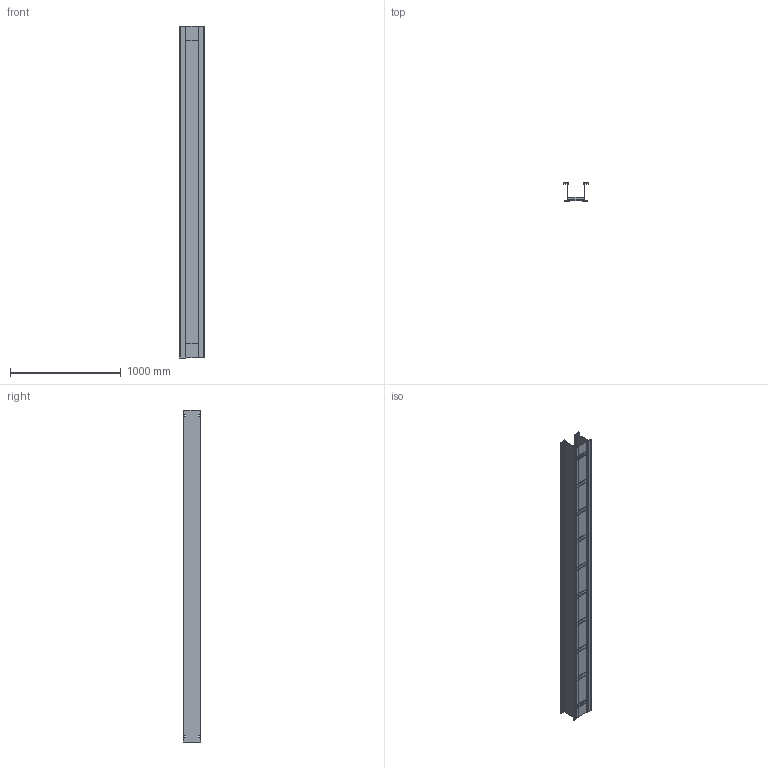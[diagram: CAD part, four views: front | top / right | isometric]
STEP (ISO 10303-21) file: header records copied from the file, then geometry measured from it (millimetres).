
FILE_DESCRIPTION((''),'2;1');
FILE_NAME('AH6606S-3_ASM','2010-02-02T',('erouzier'),(''),'PRO/ENGINEER BY PARAMETRIC TECHNOLOGY CORPORATION, 2008510','PRO/ENGINEER BY PARAMETRIC TECHNOLOGY CORPORATION, 2008510','');
FILE_SCHEMA(('CONFIG_CONTROL_DESIGN'));
Length unit declared in the file: inch
Products named in the file (14): CDS002156-015_AF3; CDS002156-015_AF4; CDS002159L6_AF0; CDS002159L6_AF1; CDS002159L6_AF2; CDS002159L6_AF3; CDS002159L6_AF4; CDS002159L6_AF5; CDS002159L6_AF6; CDS002159L6_AF7; CDS002159L6_AF8; CDS002159L6_AF9; ED04587-009; AH6606S-3_ASM
Assembly tree (13 placements, depth 2):
  AH6606S-3_ASM
    CDS002156-015_AF3
    CDS002156-015_AF4
    CDS002159L6_AF0
    CDS002159L6_AF1
    CDS002159L6_AF2
    CDS002159L6_AF3
    CDS002159L6_AF4
    CDS002159L6_AF5
    CDS002159L6_AF6
    CDS002159L6_AF7
    CDS002159L6_AF8
    CDS002159L6_AF9
    ED04587-009
Bounding box: 229.36 x 160.53 x 3000 mm (x, y, z)
Volume: 6926737 mm3; surface area: 4818536.4 mm2
Topology: 13 solids, 14 shells, 387 faces, 1084 edges, 724 vertices
Faces by surface type: plane 273, cylinder 114
Entity records: 12789 total; most frequent: CARTESIAN_POINT 2222, ORIENTED_EDGE 2164, DIRECTION 2140, EDGE_CURVE 1084, VECTOR 856, LINE 856, VERTEX_POINT 724, AXIS2_PLACEMENT_3D 642
